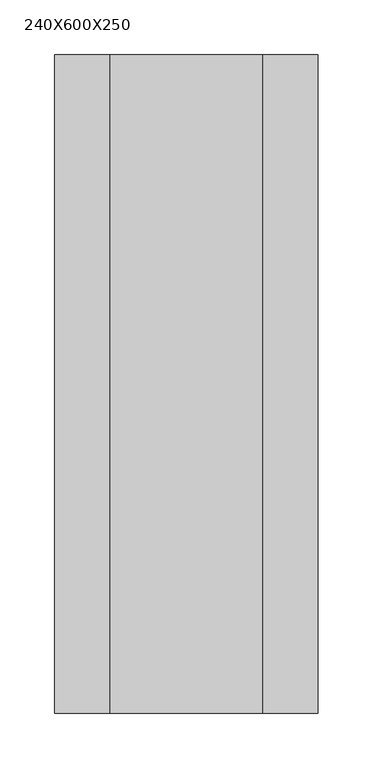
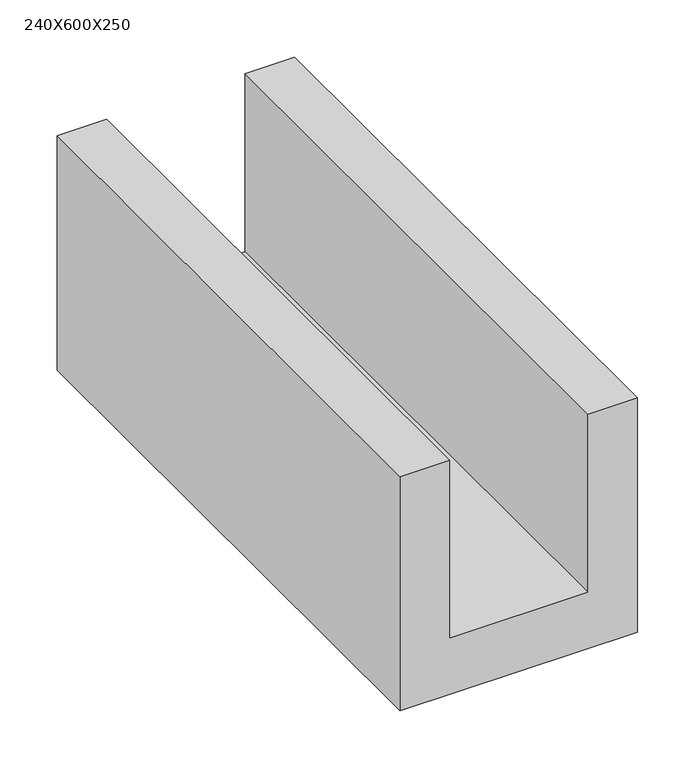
"""IFC4 building model written with IfcOpenShell, lengths in millimetres: plate geometry, GASBETON Evolution Canalette : 240X600X250."""

import ifcopenshell
import ifcopenshell.guid

model = None  # the IFC model being written
_history = None  # IfcOwnerHistory: only IFC2X3 demands one
_inside = {}  # id of a spatial element -> (the spatial element, [elements in it])
_under = {}  # id of a project, library or spatial element -> (it, [spatial elements below it])
_declared = {}  # id of a project -> (the project, [libraries it declares])
_typed = {}  # id of a type object -> (the type object, [elements of that type])
_made_of = {}  # id of a material, layer set ... -> (it, [elements and type objects made of it])


def new_model(schema):
    """Start an empty IFC model of exactly this schema.

    Asked for "IFC4X3", IfcOpenShell would pick the latest addendum, in which some entities
    have other attributes; the version numbers below select the first issue.
    IFC2X3 requires an IfcOwnerHistory on every rooted entity: one is made here for all.
    """
    global model, _history
    if schema == "IFC4X3":
        model = ifcopenshell.file(schema_version=(4, 3, 0, 0))
    else:
        model = ifcopenshell.file(schema=schema)
    _inside.clear()
    _under.clear()
    _declared.clear()
    _typed.clear()
    _made_of.clear()
    _history = None
    if model.schema == "IFC2X3":
        org = make("IfcOrganization", Name="unknown")
        user = make(
            "IfcPersonAndOrganization",
            ThePerson=make("IfcPerson", FamilyName="unknown"),
            TheOrganization=org,
        )
        app = make(
            "IfcApplication",
            ApplicationDeveloper=org,
            Version="unknown",
            ApplicationFullName="unknown",
            ApplicationIdentifier="unknown",
        )
        _history = make(
            "IfcOwnerHistory",
            OwningUser=user,
            OwningApplication=app,
            ChangeAction="ADDED",
            CreationDate=0,
        )
    return model


def make(cls, **values):
    """One entity of the class cls with the attributes given. An attribute that is None is left unset."""
    return model.create_entity(
        cls, **{name: value for name, value in values.items() if value is not None}
    )


def rooted(cls, **values):
    """An entity with a GlobalId (a new one), such as an element, a storey or a relation."""
    return make(cls, GlobalId=ifcopenshell.guid.new(), OwnerHistory=_history, **values)


def si_unit(unit_type, name, prefix=None):
    """IfcSIUnit, for example si_unit("LENGTHUNIT", "METRE", prefix="MILLI")."""
    return make("IfcSIUnit", UnitType=unit_type, Prefix=prefix, Name=name)


def assignment(units):
    """IfcUnitAssignment: the units of a project."""
    return None if units is None else make("IfcUnitAssignment", Units=units)


def point(xyz):
    """IfcCartesianPoint."""
    return None if xyz is None else make("IfcCartesianPoint", Coordinates=xyz)


def direction(xyz):
    """IfcDirection."""
    return None if xyz is None else make("IfcDirection", DirectionRatios=xyz)


def frame(location, z_axis=None, x_axis=None):
    """IfcAxis2Placement3D, a coordinate frame: its origin and axes. An axis left out is left unset."""
    return make(
        "IfcAxis2Placement3D",
        Location=point(location),
        Axis=direction(z_axis),
        RefDirection=direction(x_axis),
    )


def origin():
    """The frame at (0, 0, 0) with its axes left unset."""
    return frame((0.0, 0.0, 0.0))


def place(relative_to, where):
    """IfcLocalPlacement: puts the frame where relative to a parent placement (None: the world)."""
    return make(
        "IfcLocalPlacement", PlacementRelTo=relative_to, RelativePlacement=where
    )


def context(
    kind, dimensions, precision=None, world=None, true_north=None, identifier=None
):
    """IfcGeometricRepresentationContext, for example the 3D "Model" context."""
    return make(
        "IfcGeometricRepresentationContext",
        ContextIdentifier=identifier,
        ContextType=kind,
        CoordinateSpaceDimension=dimensions,
        Precision=precision,
        WorldCoordinateSystem=world,
        TrueNorth=true_north,
    )


def project(units=None, contexts=None):
    """IfcProject with its units and contexts."""
    return rooted(
        "IfcProject",
        Name="project",
        RepresentationContexts=contexts,
        UnitsInContext=assignment(units),
    )


def spatial(cls, under=None, at=None, **own):
    """A site, building, storey or space (cls), placed at a placement, below another one or the project."""
    s = rooted(cls, ObjectPlacement=at, **own)
    if under is not None:
        _under.setdefault(under.id(), (under, []))[1].append(s)
    return s


def polyline(points):
    """IfcPolyline through the points."""
    return make("IfcPolyline", Points=[point(p) for p in points])


def outline(outer, holes=None, kind="AREA"):
    """IfcArbitraryClosedProfileDef: a profile drawn as a closed curve; with holes, ...WithVoids."""
    if holes is None:
        return make("IfcArbitraryClosedProfileDef", ProfileType=kind, OuterCurve=outer)
    return make(
        "IfcArbitraryProfileDefWithVoids",
        ProfileType=kind,
        OuterCurve=outer,
        InnerCurves=holes,
    )


def extrude(swept, where, along, depth):
    """IfcExtrudedAreaSolid: the profile swept, set in the frame where, extruded along a direction by depth."""
    return make(
        "IfcExtrudedAreaSolid",
        SweptArea=swept,
        Position=where,
        ExtrudedDirection=direction(along),
        Depth=depth,
    )


def shape(context_of_items, identifier, shape_type, items):
    """IfcShapeRepresentation: the items that make up one representation, for example the "Body"."""
    return make(
        "IfcShapeRepresentation",
        ContextOfItems=context_of_items,
        RepresentationIdentifier=identifier,
        RepresentationType=shape_type,
        Items=items,
    )


def source(mapping_origin, context_of_items, identifier, shape_type, items):
    """IfcRepresentationMap: a shape defined once, which mapped items show again and again."""
    return make(
        "IfcRepresentationMap",
        MappingOrigin=mapping_origin,
        MappedRepresentation=shape(context_of_items, identifier, shape_type, items),
    )


def transform(
    local_origin,
    x_axis=None,
    y_axis=None,
    z_axis=None,
    scale=None,
    scale2=None,
    scale3=None,
    uniform=True,
):
    """IfcCartesianTransformationOperator3D, or its non-uniform kind. x_axis, y_axis, z_axis: its Axis1, 2, 3."""
    if uniform:
        return make(
            "IfcCartesianTransformationOperator3D",
            Axis1=direction(x_axis),
            Axis2=direction(y_axis),
            LocalOrigin=point(local_origin),
            Scale=scale,
            Axis3=direction(z_axis),
        )
    return make(
        "IfcCartesianTransformationOperator3DnonUniform",
        Axis1=direction(x_axis),
        Axis2=direction(y_axis),
        LocalOrigin=point(local_origin),
        Scale=scale,
        Axis3=direction(z_axis),
        Scale2=scale2,
        Scale3=scale3,
    )


def mapped(mapping_source, mapping_target):
    """IfcMappedItem: shows the shape of a source again, moved by a transform."""
    return make(
        "IfcMappedItem", MappingSource=mapping_source, MappingTarget=mapping_target
    )


def made_of(thing, what):
    """Note that an element or type object is made of a material, layer set ...; save() writes the relation."""
    if what is not None:
        _made_of.setdefault(what.id(), (what, []))[1].append(thing)
    return thing


def element(
    cls,
    number,
    at=None,
    inside=None,
    cuts=None,
    type_object=None,
    material=None,
    context=None,
    identifier="Body",
    shape_type=None,
    held_by="IfcProductDefinitionShape",
    body=None,
    shapes=None,
    **own,
):
    """One element of the class cls, such as IfcWall. Its Tag is "e" and its number.

    at: its placement. inside: the storey or other place that contains it. cuts: it is an
    opening in that element (IfcRelVoidsElement). A single representation is given by context,
    identifier, shape_type and body (its items); several are given by shapes. held_by: the class
    of the entity that holds the representations. save() writes the other relations.
    """
    e = rooted(cls, Tag="e%d" % number, ObjectPlacement=at, **own)
    if body is not None:
        shapes = [shape(context, identifier, shape_type, body)]
    if shapes is not None:
        e.Representation = make(held_by, Representations=shapes)
    if inside is not None:
        _inside.setdefault(inside.id(), (inside, []))[1].append(e)
    if cuts is not None:
        rooted(
            "IfcRelVoidsElement", RelatingBuildingElement=cuts, RelatedOpeningElement=e
        )
    if type_object is not None:
        _typed.setdefault(type_object.id(), (type_object, []))[1].append(e)
    return made_of(e, material)


def aggregate(whole, parts):
    """IfcRelAggregates: a whole, such as a stair, and the parts it consists of."""
    return rooted("IfcRelAggregates", RelatingObject=whole, RelatedObjects=parts)


def save(model, path):
    """Write the relations noted so far, then the file.

    IfcRelAggregates (storeys below a building ...), IfcRelContainedInSpatialStructure (elements
    in a storey), IfcRelDefinesByType, IfcRelAssociatesMaterial and IfcRelDeclares: one each for
    every whole, place, type object, material and project.
    """
    for whole, parts in _under.values():
        aggregate(whole, parts)
    for where, things in _inside.values():
        rooted(
            "IfcRelContainedInSpatialStructure",
            RelatedElements=things,
            RelatingStructure=where,
        )
    for kind, things in _typed.values():
        rooted("IfcRelDefinesByType", RelatedObjects=things, RelatingType=kind)
    for what, things in _made_of.values():
        rooted("IfcRelAssociatesMaterial", RelatedObjects=things, RelatingMaterial=what)
    for by, libraries in _declared.values():
        rooted("IfcRelDeclares", RelatingContext=by, RelatedDefinitions=libraries)
    model.write(path)


def plate_240x600x250_20c2fb3c(model_context):
    return source(origin(), model_context, "Body", "SweptSolid", [
        extrude(outline(polyline([(0.0, -120.0), (0.0, 120.0), (250.0, 120.0), (250.0, 70.0), (60.0, 70.0), (60.0, -70.0), (250.0, -70.0), (250.0, -120.0), (0.0, -120.0)])), frame((0.0, -300.0, 0.0), z_axis=(0.0, 1.0, 0.0), x_axis=(0.0, 0.0, 1.0)), (0.0, 0.0, 1.0), 600.0),
    ])


if __name__ == "__main__":
    model = new_model("IFC4")
    model_context = context("Model", 3, world=origin())
    ifc_project = project(units=[si_unit("LENGTHUNIT", "METRE", prefix="MILLI")], contexts=[model_context])
    site = spatial("IfcSite", under=ifc_project)
    building = spatial("IfcBuilding", under=site)
    placement = place(None, origin())
    plate_240x600x250_shape = plate_240x600x250_20c2fb3c(model_context)
    element("IfcPlate", 1, ObjectType="GASBETON Evolution Canalette : 240X600X250", at=placement, inside=building, context=model_context, shape_type="MappedRepresentation", body=[
        mapped(plate_240x600x250_shape, transform((0.0, 0.0, 0.0), x_axis=(1.0, 0.0, 0.0), y_axis=(0.0, 1.0, 0.0), z_axis=(0.0, 0.0, 1.0))),
    ])
    save(model, "model.ifc")
